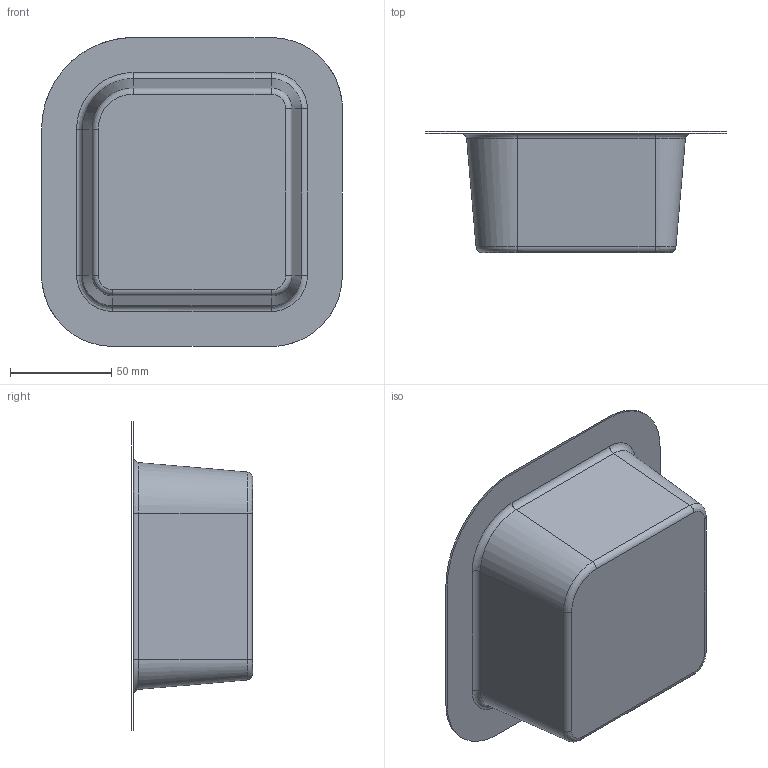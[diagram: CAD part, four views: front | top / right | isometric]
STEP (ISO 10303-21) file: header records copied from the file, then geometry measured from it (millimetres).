
FILE_DESCRIPTION(('CATIA V5 STEP Exchange'),'2;1');
FILE_NAME('C:\_Andres\UNIVERSIDAD\IQS\ASIGNATURAS\DAO\Controles\1617\c3\2inicio\Barrenechea_Bonifacio_control3_v2.stp','2017-02-17T14:22:00+00:00',('none'),('none'),'CATIA Version 5-6 Release 2014 SP1 HF18','CATIA V5 STEP AP203','none');
FILE_SCHEMA(('CONFIG_CONTROL_DESIGN'));
Length unit declared in the file: millimetre
Products named in the file (1): Barrenechea_Bonifacio_control3_v2
Bounding box: 148.28 x 59.78 x 152.28 mm (x, y, z)
Surface area: 63128.5 mm2 (no closed solid volume)
Topology: 0 solids, 2 shells, 27 faces, 80 edges, 57 vertices
Faces by surface type: bspline 16, cylinder 8, plane 3
Entity records: 1916 total; most frequent: CARTESIAN_POINT 1320, ORIENTED_EDGE 128, EDGE_CURVE 72, B_SPLINE_CURVE_WITH_KNOTS 54, DIRECTION 50, VERTEX_POINT 48, EDGE_LOOP 28, ADVANCED_FACE 27
